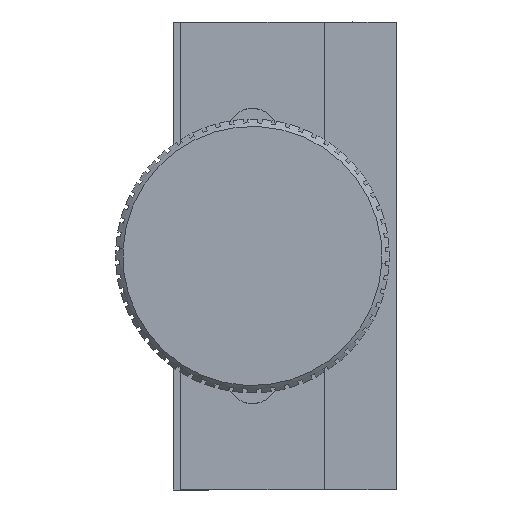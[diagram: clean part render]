
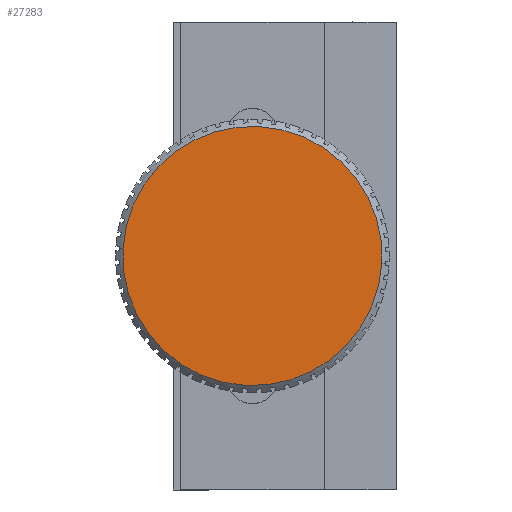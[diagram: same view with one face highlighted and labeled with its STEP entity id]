
A CAD part, left-side view. The second image highlights one B-rep face of the part: STEP entity #27283.
In plain terms, the highlighted planar face has unit normal (-1, 0, 0) as drawn and (1, 0, 0) by its records, which use the part's own axes.
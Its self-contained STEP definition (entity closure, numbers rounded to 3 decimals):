
#4242 = AXIS2_PLACEMENT_3D ( 'NONE', #17093, #26320, #17280 ) ;
#8681 = CARTESIAN_POINT ( 'NONE',  ( 81.5, 20., 0. ) ) ;
#8759 = VERTEX_POINT ( 'NONE', #20141 ) ;
#10183 = EDGE_LOOP ( 'NONE', ( #19535, #33828 ) ) ;
#13989 = AXIS2_PLACEMENT_3D ( 'NONE', #8681, #49960, #54971 ) ;
#14913 = VERTEX_POINT ( 'NONE', #14999 ) ;
#14999 = CARTESIAN_POINT ( 'NONE',  ( 81.5, 20., 18. ) ) ;
#17093 = CARTESIAN_POINT ( 'NONE',  ( 81.5, 20., 0. ) ) ;
#17280 = DIRECTION ( 'NONE',  ( 0., 0., -1. ) ) ;
#19535 = ORIENTED_EDGE ( 'NONE', *, *, #34317, .T. ) ;
#20105 = CARTESIAN_POINT ( 'NONE',  ( 81.5, 20., 0. ) ) ;
#20141 = CARTESIAN_POINT ( 'NONE',  ( 81.5, 20., -18. ) ) ;
#22862 = AXIS2_PLACEMENT_3D ( 'NONE', #20105, #46935, #24311 ) ;
#23852 = CIRCLE ( 'NONE', #22862, 18. ) ;
#24311 = DIRECTION ( 'NONE',  ( 0., 0., 1. ) ) ;
#26320 = DIRECTION ( 'NONE',  ( 1., 0., 0. ) ) ;
#27283 = ADVANCED_FACE ( 'NONE', ( #27435 ), #45328, .T. ) ;
#27435 = FACE_OUTER_BOUND ( 'NONE', #10183, .T. ) ;
#33828 = ORIENTED_EDGE ( 'NONE', *, *, #48384, .T. ) ;
#34317 = EDGE_CURVE ( 'NONE', #14913, #8759, #23852, .T. ) ;
#45328 = PLANE ( 'NONE',  #4242 ) ;
#46935 = DIRECTION ( 'NONE',  ( 1., 0., 0. ) ) ;
#48384 = EDGE_CURVE ( 'NONE', #8759, #14913, #52321, .T. ) ;
#49960 = DIRECTION ( 'NONE',  ( 1., 0., 0. ) ) ;
#52321 = CIRCLE ( 'NONE', #13989, 18. ) ;
#54971 = DIRECTION ( 'NONE',  ( 0., 0., 1. ) ) ;
